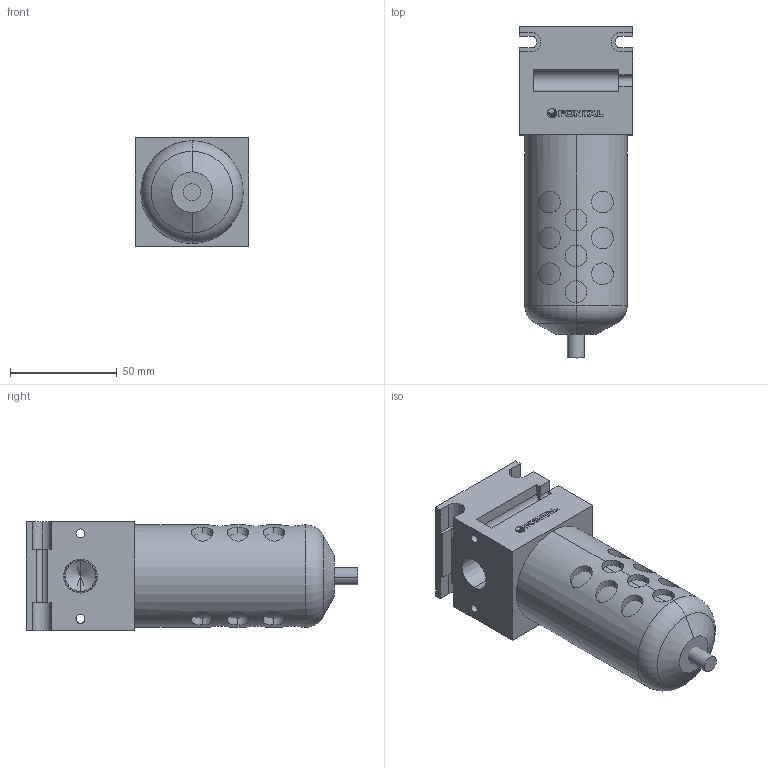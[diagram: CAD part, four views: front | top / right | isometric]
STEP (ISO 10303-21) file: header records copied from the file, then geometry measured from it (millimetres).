
FILE_DESCRIPTION (( 'STEP AP203' ), '1' );
FILE_NAME ('F55-03#Y#.STEP', '2016-02-03T06:15:17', ( '' ), ( '' ), 'SwSTEP 2.0', 'SolidWorks 2014', '' );
FILE_SCHEMA (( 'CONFIG_CONTROL_DESIGN' ));
Length unit declared in the file: millimetre
Products named in the file (5): F55-2; F55-03#Y#; F45-MARK; F55-03
Assembly tree (4 placements, depth 2):
  F55-03#Y#
    F55-03
    F55-2
    F45-MARK
    (unnamed)
Bounding box: 53 x 155.5 x 51.12 mm (x, y, z)
Volume: 274372.3 mm3; surface area: 40625.9 mm2
Topology: 10 solids, 10 shells, 237 faces, 597 edges, 392 vertices
Faces by surface type: plane 109, cylinder 106, cone 12, bspline 8, torus 2
Entity records: 10296 total; most frequent: CARTESIAN_POINT 4207, ORIENTED_EDGE 1186, DIRECTION 1071, EDGE_CURVE 593, VERTEX_POINT 392, LINE 375, VECTOR 375, AXIS2_PLACEMENT_3D 348
